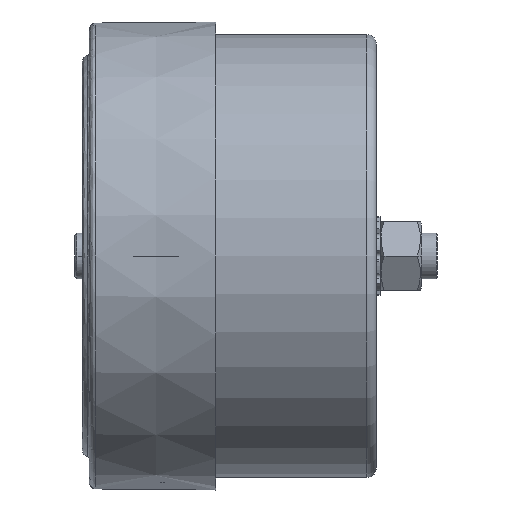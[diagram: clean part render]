
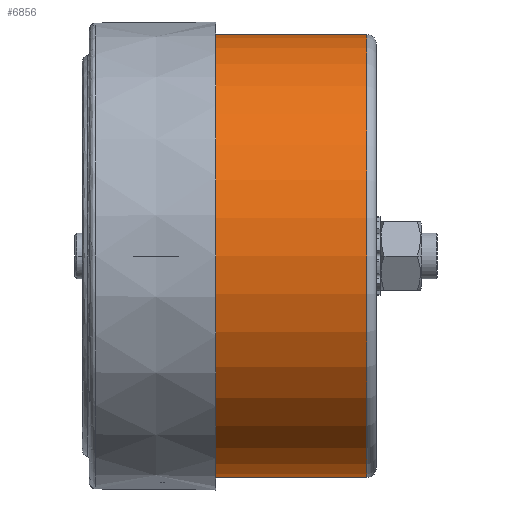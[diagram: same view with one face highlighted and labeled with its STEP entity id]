
A CAD part, left-side view. The second image highlights one B-rep face of the part: STEP entity #6856.
In plain terms, the highlighted cylindrical face has radius 58 mm (diameter 116 mm), a partial arc.
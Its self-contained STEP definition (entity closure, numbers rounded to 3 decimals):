
#728 = DIRECTION ( 'NONE',  ( 0., 0., -1. ) ) ;
#2598 = CARTESIAN_POINT ( 'NONE',  ( 0., -72.4, 58. ) ) ;
#2684 = CARTESIAN_POINT ( 'NONE',  ( 0., -0.6, -58. ) ) ;
#2687 = CARTESIAN_POINT ( 'NONE',  ( 0., -0.6, 0. ) ) ;
#2721 = VECTOR ( 'NONE', #4430, 1000. ) ;
#3085 = DIRECTION ( 'NONE',  ( 0., 1., 0. ) ) ;
#4186 = DIRECTION ( 'NONE',  ( 0., -1., 0. ) ) ;
#4430 = DIRECTION ( 'NONE',  ( 0., -1., 0. ) ) ;
#5664 = CYLINDRICAL_SURFACE ( 'NONE', #6931, 58. ) ;
#5901 = CIRCLE ( 'NONE', #15553, 58. ) ;
#6096 = DIRECTION ( 'NONE',  ( 0., -1., 0. ) ) ;
#6426 = ORIENTED_EDGE ( 'NONE', *, *, #9891, .F. ) ;
#6790 = DIRECTION ( 'NONE',  ( 0., -1., 0. ) ) ;
#6856 = ADVANCED_FACE ( 'NONE', ( #11576 ), #5664, .T. ) ;
#6931 = AXIS2_PLACEMENT_3D ( 'NONE', #14743, #6790, #728 ) ;
#7017 = ORIENTED_EDGE ( 'NONE', *, *, #10739, .T. ) ;
#7102 = EDGE_LOOP ( 'NONE', ( #6426, #7017, #7419, #14380 ) ) ;
#7359 = VERTEX_POINT ( 'NONE', #19441 ) ;
#7419 = ORIENTED_EDGE ( 'NONE', *, *, #15774, .T. ) ;
#8772 = DIRECTION ( 'NONE',  ( 0., 0., -1. ) ) ;
#8935 = AXIS2_PLACEMENT_3D ( 'NONE', #2687, #4186, #8772 ) ;
#9315 = CARTESIAN_POINT ( 'NONE',  ( 0., -69.9, 0. ) ) ;
#9515 = EDGE_CURVE ( 'NONE', #20286, #15265, #5901, .T. ) ;
#9891 = EDGE_CURVE ( 'NONE', #7359, #15265, #12056, .T. ) ;
#10397 = VECTOR ( 'NONE', #6096, 1000. ) ;
#10618 = CARTESIAN_POINT ( 'NONE',  ( 0., -72.4, -58. ) ) ;
#10739 = EDGE_CURVE ( 'NONE', #7359, #14174, #18194, .T. ) ;
#11576 = FACE_OUTER_BOUND ( 'NONE', #7102, .T. ) ;
#12056 = LINE ( 'NONE', #2598, #2721 ) ;
#12412 = CARTESIAN_POINT ( 'NONE',  ( 0., -69.9, 58. ) ) ;
#12927 = CARTESIAN_POINT ( 'NONE',  ( 0., -69.9, -58. ) ) ;
#13888 = DIRECTION ( 'NONE',  ( 0., 0., -1. ) ) ;
#14174 = VERTEX_POINT ( 'NONE', #2684 ) ;
#14380 = ORIENTED_EDGE ( 'NONE', *, *, #9515, .T. ) ;
#14597 = LINE ( 'NONE', #10618, #10397 ) ;
#14743 = CARTESIAN_POINT ( 'NONE',  ( 0., -72.4, 0. ) ) ;
#15265 = VERTEX_POINT ( 'NONE', #12412 ) ;
#15553 = AXIS2_PLACEMENT_3D ( 'NONE', #9315, #3085, #13888 ) ;
#15774 = EDGE_CURVE ( 'NONE', #14174, #20286, #14597, .T. ) ;
#18194 = CIRCLE ( 'NONE', #8935, 58. ) ;
#19441 = CARTESIAN_POINT ( 'NONE',  ( 0., -0.6, 58. ) ) ;
#20286 = VERTEX_POINT ( 'NONE', #12927 ) ;
